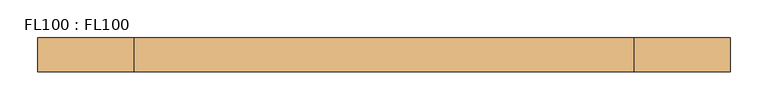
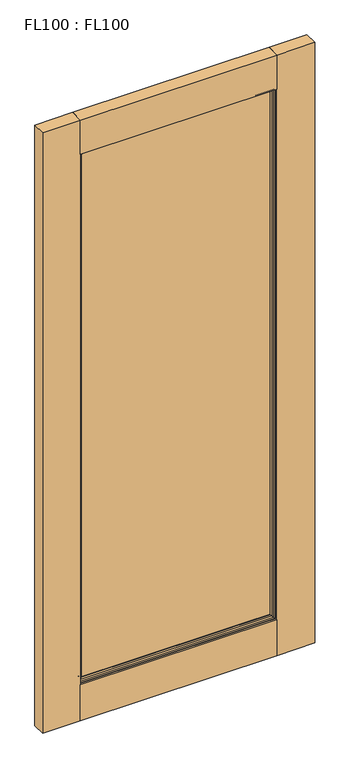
"""IFC4 building model written with IfcOpenShell, lengths in millimetres: door geometry, FL100 : FL100."""

from ifc_helpers import new_model, si_unit, frame, origin, origin_with_axes, place, context, project, spatial, polyline, ellipse_curve, outline, extrude, source, transform, mapped, element, save
from ifc_brep_helpers import plane_surface, cylinder_surface, revolved_surface, advanced_brep


def fl100_fl100_03ccafaa(model_context):
    return source(origin(), model_context, "Body", "SolidModel", [
        extrude(outline(polyline([(787.4, -44.45), (127.0, -44.45), (127.0, 0.0), (787.4, 0.0), (787.4, -44.45)])), origin_with_axes(), (0.0, 0.0, 1.0), 127.0),
        extrude(outline(polyline([(787.4, -44.45), (127.0, -44.45), (127.0, 0.0), (787.4, 0.0), (787.4, -44.45)])), frame((0.0, 0.0, 2011.7389588), z_axis=(0.0, 0.0, 1.0), x_axis=(1.0, 0.0, 0.0)), (0.0, 0.0, 1.0), 121.8610412),
        extrude(outline(polyline([(127.0, -19.05), (787.4, -19.05), (787.4, -25.4), (127.0, -25.4), (127.0, -19.05)])), frame((0.0, 0.0, 127.0), z_axis=(0.0, 0.0, 1.0), x_axis=(1.0, 0.0, 0.0)), (0.0, 0.0, 1.0), 1884.7389588),
        extrude(outline(polyline([(914.4, -44.45), (787.4, -44.45), (787.4, 0.0), (914.4, 0.0), (914.4, -44.45)])), origin_with_axes(), (0.0, 0.0, 1.0), 2133.6),
        extrude(outline(polyline([(127.0, -44.45), (0.0, -44.45), (0.0, 0.0), (127.0, 0.0), (127.0, -44.45)])), origin_with_axes(), (0.0, 0.0, 1.0), 2133.6),
        advanced_brep(
        [(787.4, -6.35, 2011.7389588), (787.4, -19.05, 2011.7389588), (787.4, -19.05, 127.0), (787.4, -6.35, 127.0), (774.7, -19.05, 1999.0389588), (774.7, -15.875, 1999.0389588), (774.7, -15.875, 139.7), (774.7, -19.05, 139.7), (127.0, -19.05, 127.0), (127.0, -6.35, 127.0), (139.7, -15.875, 139.7), (139.7, -19.05, 139.7), (127.0, -19.05, 2011.7389588), (127.0, -6.35, 2011.7389588), (139.7, -15.875, 1999.0389588), (139.7, -19.05, 1999.0389588), (784.225, -6.35, 2008.5639588), (130.175, -6.35, 2008.5639588), (130.175, -6.35, 130.175), (784.225, -6.35, 130.175), (781.98115, -10.2364622, 2006.3201088), (781.98115, -10.2364622, 132.41885), (778.5864622, -13.63115, 2002.925421), (778.5864622, -13.63115, 135.8135378), (132.41885, -10.2364622, 132.41885), (135.8135378, -13.63115, 135.8135378), (132.41885, -10.2364622, 2006.3201088), (135.8135378, -13.63115, 2002.925421)],
        [
            (0, 1),
            (1, 2),
            (2, 3),
            (3, 0),
            (4, 5),
            (5, 6),
            (6, 7),
            (7, 4),
            (2, 8),
            (8, 9),
            (9, 3),
            (6, 10),
            (10, 11),
            (11, 7),
            (8, 12),
            (12, 13),
            (13, 9),
            (10, 14),
            (14, 15),
            (15, 11),
            (1, 12),
            (15, 4),
            (0, 13),
            (16, 17),
            (17, 18),
            (18, 19),
            (19, 16),
            (14, 5),
            (20, 16, ellipse_curve(frame((779.316688, -6.1071596, 2003.6556468), z_axis=(-0.7071067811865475, 0.0, 0.7071067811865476), x_axis=(-0.7071067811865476, 0.0, -0.7071067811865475)), 6.9498918, 4.9143156)),
            (19, 21, ellipse_curve(frame((779.316688, -6.1071596, 135.083312), z_axis=(-0.7071067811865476, 0.0, -0.7071067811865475), x_axis=(0.7071067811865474, 0.0, -0.7071067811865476)), 6.9498918, 4.9143156)),
            (21, 20),
            (22, 20, ellipse_curve(frame((788.1558944, -19.8058944, 2012.4948532), z_axis=(0.7071067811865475, 0.0, -0.7071067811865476), x_axis=(0.7071067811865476, 0.0, 0.7071067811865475)), 16.1059927, 11.3886566)),
            (21, 23, ellipse_curve(frame((788.1558944, -19.8058944, 126.2441056), z_axis=(0.7071067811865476, 0.0, 0.7071067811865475), x_axis=(-0.7071067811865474, 0.0, 0.7071067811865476)), 16.1059927, 11.3886566)),
            (23, 22),
            (5, 22, ellipse_curve(frame((774.4571596, -10.966688, 1998.7961184), z_axis=(-0.7071067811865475, 0.0, 0.7071067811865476), x_axis=(-0.7071067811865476, 0.0, -0.7071067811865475)), 6.9498918, 4.9143156)),
            (23, 6, ellipse_curve(frame((774.4571596, -10.966688, 139.9428404), z_axis=(-0.7071067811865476, 0.0, -0.7071067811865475), x_axis=(0.7071067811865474, 0.0, -0.7071067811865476)), 6.9498918, 4.9143156)),
            (18, 24, ellipse_curve(frame((135.083312, -6.1071596, 135.083312), z_axis=(-0.7071067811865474, 0.0, 0.7071067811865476), x_axis=(-0.7071067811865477, 0.0, -0.7071067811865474)), 6.9498918, 4.9143156)),
            (24, 21),
            (24, 25, ellipse_curve(frame((126.2441056, -19.8058944, 126.2441056), z_axis=(0.7071067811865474, 0.0, -0.7071067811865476), x_axis=(0.7071067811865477, 0.0, 0.7071067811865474)), 16.1059927, 11.3886566)),
            (25, 23),
            (25, 10, ellipse_curve(frame((139.9428404, -10.966688, 139.9428404), z_axis=(-0.7071067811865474, 0.0, 0.7071067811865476), x_axis=(-0.7071067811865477, 0.0, -0.7071067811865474)), 6.9498918, 4.9143156)),
            (17, 26, ellipse_curve(frame((135.083312, -6.1071596, 2003.6556468), z_axis=(0.7071067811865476, 0.0, 0.7071067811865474), x_axis=(-0.7071067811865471, 0.0, 0.7071067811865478)), 6.9498918, 4.9143156)),
            (26, 24),
            (26, 27, ellipse_curve(frame((126.2441056, -19.8058944, 2012.4948532), z_axis=(-0.7071067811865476, 0.0, -0.7071067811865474), x_axis=(0.7071067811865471, 0.0, -0.7071067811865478)), 16.1059927, 11.3886566)),
            (27, 25),
            (27, 14, ellipse_curve(frame((139.9428404, -10.966688, 1998.7961184), z_axis=(0.7071067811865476, 0.0, 0.7071067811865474), x_axis=(-0.7071067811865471, 0.0, 0.7071067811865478)), 6.9498918, 4.9143156)),
            (20, 26),
            (22, 27),
        ],
        [
            plane_surface(frame((787.4, -19.05, 2011.7389588), z_axis=(1.0, 0.0, 0.0), x_axis=(0.0, 0.0, -1.0))),
            plane_surface(frame((774.7, -15.875, 1999.0389588), z_axis=(-1.0, 0.0, 0.0), x_axis=(0.0, 0.0, -1.0))),
            plane_surface(frame((787.4, -19.05, 127.0), z_axis=(0.0, 0.0, -1.0), x_axis=(-1.0, 0.0, 0.0))),
            plane_surface(frame((774.7, -15.875, 139.7), z_axis=(0.0, 0.0, 1.0), x_axis=(-1.0, 0.0, 0.0))),
            plane_surface(frame((127.0, -19.05, 127.0), z_axis=(-1.0, 0.0, 0.0), x_axis=(0.0, 0.0, 1.0))),
            plane_surface(frame((139.7, -15.875, 139.7), z_axis=(1.0, 0.0, 0.0), x_axis=(0.0, 0.0, 1.0))),
            plane_surface(frame((139.7, -19.05, 1999.0389588), z_axis=(0.0, -1.0, 0.0), x_axis=(1.0, 0.0, 0.0))),
            plane_surface(frame((127.0, -19.05, 2011.7389588), z_axis=(0.0, 0.0, 1.0), x_axis=(1.0, 0.0, 0.0))),
            plane_surface(frame((127.0, -6.35, 2011.7389588), z_axis=(0.0, 1.0, 0.0), x_axis=(1.0, 0.0, 0.0))),
            plane_surface(frame((139.7, -15.875, 1999.0389588), z_axis=(0.0, 0.0, -1.0), x_axis=(1.0, 0.0, 0.0))),
            revolved_surface(polyline([(774.4023724, -6.1071596, 130.1689963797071), (774.4023724, -6.1071596, 2008.569962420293)]), (779.316688, -6.1071596, 2011.7389588), (0.0, 0.0, -1.0)),
            cylinder_surface(frame((788.1558944, -19.8058944, 2011.7389588), z_axis=(0.0, 0.0, 1.0), x_axis=(-1.0, 0.0, 0.0)), 11.3886566),
            revolved_surface(polyline([(769.542844, -10.966688, 135.02852477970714), (769.542844, -10.966688, 2003.710434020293)]), (774.4571596, -10.966688, 2011.7389588), (0.0, 0.0, -1.0)),
            revolved_surface(polyline([(130.1689963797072, -6.1071596, 139.99762760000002), (784.2310036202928, -6.1071596, 139.99762760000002)]), (787.4, -6.1071596, 135.083312), (-1.0, 0.0, 0.0)),
            cylinder_surface(frame((787.4, -19.8058944, 126.2441056), z_axis=(1.0, 0.0, 0.0), x_axis=(0.0, 0.0, 1.0)), 11.3886566),
            revolved_surface(polyline([(135.02852477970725, -10.966688, 144.857156), (779.3714752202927, -10.966688, 144.857156)]), (787.4, -10.966688, 139.9428404), (-1.0, 0.0, 0.0)),
            revolved_surface(polyline([(139.99762760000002, -6.1071596, 2008.569962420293), (139.99762760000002, -6.1071596, 130.16899637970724)]), (135.083312, -6.1071596, 127.0), (0.0, 0.0, 1.0)),
            cylinder_surface(frame((126.2441056, -19.8058944, 127.0), z_axis=(0.0, 0.0, -1.0), x_axis=(1.0, 0.0, 0.0)), 11.3886566),
            revolved_surface(polyline([(144.857156, -10.966688, 2003.710434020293), (144.857156, -10.966688, 135.02852477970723)]), (139.9428404, -10.966688, 127.0), (0.0, 0.0, 1.0)),
            revolved_surface(polyline([(784.2310036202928, -6.1071596, 1998.7413312), (130.16899637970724, -6.1071596, 1998.7413312)]), (127.0, -6.1071596, 2003.6556468), (1.0, 0.0, 0.0)),
            cylinder_surface(frame((127.0, -19.8058944, 2012.4948532), z_axis=(-1.0, 0.0, 0.0), x_axis=(0.0, 0.0, -1.0)), 11.3886566),
            revolved_surface(polyline([(779.3714752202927, -10.966688, 1993.8818028), (135.02852477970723, -10.966688, 1993.8818028)]), (127.0, -10.966688, 1998.7961184), (1.0, 0.0, 0.0)),
        ],
        [
            (0, [[1, 2, 3, 4]]),
            (1, [[5, 6, 7, 8]]),
            (2, [[-3, 9, 10, 11]]),
            (3, [[-7, 12, 13, 14]]),
            (4, [[-10, 15, 16, 17]]),
            (5, [[-13, 18, 19, 20]]),
            (6, [[21, -15, -9, -2], [-14, -20, 22, -8]]),
            (7, [[-16, -21, -1, 23]]),
            (8, [[-11, -17, -23, -4], [24, 25, 26, 27]]),
            (9, [[-19, 28, -5, -22]]),
            (10, [[29, -27, 30, 31]]),
            (11, [[32, -31, 33, 34]]),
            (12, [[35, -34, 36, -6]]),
            (13, [[-30, -26, 37, 38]]),
            (14, [[-33, -38, 39, 40]]),
            (15, [[-36, -40, 41, -12]]),
            (16, [[-37, -25, 42, 43]]),
            (17, [[-39, -43, 44, 45]]),
            (18, [[-41, -45, 46, -18]]),
            (19, [[-42, -24, -29, 47]]),
            (20, [[-44, -47, -32, 48]]),
            (21, [[-46, -48, -35, -28]]),
        ],
    ),
        advanced_brep(
        [(774.7, -28.575, 1999.0389588), (774.7, -25.4, 1999.0389588), (774.7, -25.4, 139.7), (774.7, -28.575, 139.7), (787.4, -25.4, 2011.7389588), (787.4, -38.1, 2011.7389588), (787.4, -38.1, 127.0), (787.4, -25.4, 127.0), (139.7, -25.4, 139.7), (139.7, -28.575, 139.7), (127.0, -38.1, 127.0), (127.0, -25.4, 127.0), (139.7, -25.4, 1999.0389588), (139.7, -28.575, 1999.0389588), (127.0, -38.1, 2011.7389588), (127.0, -25.4, 2011.7389588), (784.225, -38.1, 130.175), (130.175, -38.1, 130.175), (130.175, -38.1, 2008.5639588), (784.225, -38.1, 2008.5639588), (778.5864622, -30.81885, 2002.925421), (778.5864622, -30.81885, 135.8135378), (781.98115, -34.2135378, 2006.3201088), (781.98115, -34.2135378, 132.41885), (135.8135378, -30.81885, 135.8135378), (132.41885, -34.2135378, 132.41885), (135.8135378, -30.81885, 2002.925421), (132.41885, -34.2135378, 2006.3201088)],
        [
            (0, 1),
            (1, 2),
            (2, 3),
            (3, 0),
            (4, 5),
            (5, 6),
            (6, 7),
            (7, 4),
            (2, 8),
            (8, 9),
            (9, 3),
            (6, 10),
            (10, 11),
            (11, 7),
            (8, 12),
            (12, 13),
            (13, 9),
            (10, 14),
            (14, 15),
            (15, 11),
            (12, 1),
            (0, 13),
            (5, 14),
            (16, 17),
            (17, 18),
            (18, 19),
            (19, 16),
            (4, 15),
            (20, 0, ellipse_curve(frame((774.4571596, -33.483312, 1998.7961184), z_axis=(-0.7071067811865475, 0.0, 0.7071067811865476), x_axis=(-0.7071067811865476, 0.0, -0.7071067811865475)), 6.9498918, 4.9143156)),
            (3, 21, ellipse_curve(frame((774.4571596, -33.483312, 139.9428404), z_axis=(-0.7071067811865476, 0.0, -0.7071067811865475), x_axis=(0.7071067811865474, 0.0, -0.7071067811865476)), 6.9498918, 4.9143156)),
            (21, 20),
            (22, 20, ellipse_curve(frame((788.1558944, -24.6441056, 2012.4948532), z_axis=(0.7071067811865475, 0.0, -0.7071067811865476), x_axis=(0.7071067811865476, 0.0, 0.7071067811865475)), 16.1059927, 11.3886566)),
            (21, 23, ellipse_curve(frame((788.1558944, -24.6441056, 126.2441056), z_axis=(0.7071067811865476, 0.0, 0.7071067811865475), x_axis=(-0.7071067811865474, 0.0, 0.7071067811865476)), 16.1059927, 11.3886566)),
            (23, 22),
            (19, 22, ellipse_curve(frame((779.316688, -38.3428404, 2003.6556468), z_axis=(-0.7071067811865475, 0.0, 0.7071067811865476), x_axis=(-0.7071067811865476, 0.0, -0.7071067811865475)), 6.9498918, 4.9143156)),
            (23, 16, ellipse_curve(frame((779.316688, -38.3428404, 135.083312), z_axis=(-0.7071067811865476, 0.0, -0.7071067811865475), x_axis=(0.7071067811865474, 0.0, -0.7071067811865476)), 6.9498918, 4.9143156)),
            (9, 24, ellipse_curve(frame((139.9428404, -33.483312, 139.9428404), z_axis=(-0.7071067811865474, 0.0, 0.7071067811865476), x_axis=(-0.7071067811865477, 0.0, -0.7071067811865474)), 6.9498918, 4.9143156)),
            (24, 21),
            (24, 25, ellipse_curve(frame((126.2441056, -24.6441056, 126.2441056), z_axis=(0.7071067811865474, 0.0, -0.7071067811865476), x_axis=(0.7071067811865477, 0.0, 0.7071067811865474)), 16.1059927, 11.3886566)),
            (25, 23),
            (25, 17, ellipse_curve(frame((135.083312, -38.3428404, 135.083312), z_axis=(-0.7071067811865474, 0.0, 0.7071067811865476), x_axis=(-0.7071067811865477, 0.0, -0.7071067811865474)), 6.9498918, 4.9143156)),
            (13, 26, ellipse_curve(frame((139.9428404, -33.483312, 1998.7961184), z_axis=(0.7071067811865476, 0.0, 0.7071067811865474), x_axis=(-0.7071067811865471, 0.0, 0.7071067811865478)), 6.9498918, 4.9143156)),
            (26, 24),
            (26, 27, ellipse_curve(frame((126.2441056, -24.6441056, 2012.4948532), z_axis=(-0.7071067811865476, 0.0, -0.7071067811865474), x_axis=(0.7071067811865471, 0.0, -0.7071067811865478)), 16.1059927, 11.3886566)),
            (27, 25),
            (27, 18, ellipse_curve(frame((135.083312, -38.3428404, 2003.6556468), z_axis=(0.7071067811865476, 0.0, 0.7071067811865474), x_axis=(-0.7071067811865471, 0.0, 0.7071067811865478)), 6.9498918, 4.9143156)),
            (20, 26),
            (22, 27),
        ],
        [
            plane_surface(frame((774.7, -25.4, 1999.0389588), z_axis=(-1.0, 0.0, 0.0), x_axis=(0.0, 0.0, -1.0))),
            plane_surface(frame((787.4, -38.1, 2011.7389588), z_axis=(1.0, 0.0, 0.0), x_axis=(0.0, 0.0, -1.0))),
            plane_surface(frame((774.7, -25.4, 139.7), z_axis=(0.0, 0.0, 1.0), x_axis=(-1.0, 0.0, 0.0))),
            plane_surface(frame((787.4, -38.1, 127.0), z_axis=(0.0, 0.0, -1.0), x_axis=(-1.0, 0.0, 0.0))),
            plane_surface(frame((139.7, -25.4, 139.7), z_axis=(1.0, 0.0, 0.0), x_axis=(0.0, 0.0, 1.0))),
            plane_surface(frame((127.0, -38.1, 127.0), z_axis=(-1.0, 0.0, 0.0), x_axis=(0.0, 0.0, 1.0))),
            plane_surface(frame((139.7, -25.4, 1999.0389588), z_axis=(0.0, 0.0, -1.0), x_axis=(1.0, 0.0, 0.0))),
            plane_surface(frame((130.175, -38.1, 2008.5639588), z_axis=(0.0, -1.0, 0.0), x_axis=(1.0, 0.0, 0.0))),
            plane_surface(frame((127.0, -38.1, 2011.7389588), z_axis=(0.0, 0.0, 1.0), x_axis=(1.0, 0.0, 0.0))),
            plane_surface(frame((127.0, -25.4, 2011.7389588), z_axis=(0.0, 1.0, 0.0), x_axis=(1.0, 0.0, 0.0))),
            revolved_surface(polyline([(769.542844, -33.483312, 135.02852477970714), (769.542844, -33.483312, 2003.710434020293)]), (774.4571596, -33.483312, 2011.7389588), (0.0, 0.0, -1.0)),
            cylinder_surface(frame((788.1558944, -24.6441056, 2011.7389588), z_axis=(0.0, 0.0, 1.0), x_axis=(-1.0, 0.0, 0.0)), 11.3886566),
            revolved_surface(polyline([(774.4023724, -38.3428404, 130.1689963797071), (774.4023724, -38.3428404, 2008.569962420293)]), (779.316688, -38.3428404, 2011.7389588), (0.0, 0.0, -1.0)),
            revolved_surface(polyline([(135.02852477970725, -33.483312, 144.857156), (779.3714752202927, -33.483312, 144.857156)]), (787.4, -33.483312, 139.9428404), (-1.0, 0.0, 0.0)),
            cylinder_surface(frame((787.4, -24.6441056, 126.2441056), z_axis=(1.0, 0.0, 0.0), x_axis=(0.0, 0.0, 1.0)), 11.3886566),
            revolved_surface(polyline([(130.1689963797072, -38.3428404, 139.99762760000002), (784.2310036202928, -38.3428404, 139.99762760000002)]), (787.4, -38.3428404, 135.083312), (-1.0, 0.0, 0.0)),
            revolved_surface(polyline([(144.857156, -33.483312, 2003.710434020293), (144.857156, -33.483312, 135.02852477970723)]), (139.9428404, -33.483312, 127.0), (0.0, 0.0, 1.0)),
            cylinder_surface(frame((126.2441056, -24.6441056, 127.0), z_axis=(0.0, 0.0, -1.0), x_axis=(1.0, 0.0, 0.0)), 11.3886566),
            revolved_surface(polyline([(139.99762760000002, -38.3428404, 2008.569962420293), (139.99762760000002, -38.3428404, 130.16899637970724)]), (135.083312, -38.3428404, 127.0), (0.0, 0.0, 1.0)),
            revolved_surface(polyline([(779.3714752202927, -33.483312, 1993.8818028), (135.02852477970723, -33.483312, 1993.8818028)]), (127.0, -33.483312, 1998.7961184), (1.0, 0.0, 0.0)),
            cylinder_surface(frame((127.0, -24.6441056, 2012.4948532), z_axis=(-1.0, 0.0, 0.0), x_axis=(0.0, 0.0, -1.0)), 11.3886566),
            revolved_surface(polyline([(784.2310036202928, -38.3428404, 1998.7413312), (130.16899637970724, -38.3428404, 1998.7413312)]), (127.0, -38.3428404, 2003.6556468), (1.0, 0.0, 0.0)),
        ],
        [
            (0, [[1, 2, 3, 4]]),
            (1, [[5, 6, 7, 8]]),
            (2, [[-3, 9, 10, 11]]),
            (3, [[-7, 12, 13, 14]]),
            (4, [[-10, 15, 16, 17]]),
            (5, [[-13, 18, 19, 20]]),
            (6, [[-16, 21, -1, 22]]),
            (7, [[23, -18, -12, -6], [24, 25, 26, 27]]),
            (8, [[-19, -23, -5, 28]]),
            (9, [[-14, -20, -28, -8], [-21, -15, -9, -2]]),
            (10, [[29, -4, 30, 31]]),
            (11, [[32, -31, 33, 34]]),
            (12, [[35, -34, 36, -27]]),
            (13, [[-30, -11, 37, 38]]),
            (14, [[-33, -38, 39, 40]]),
            (15, [[-36, -40, 41, -24]]),
            (16, [[-37, -17, 42, 43]]),
            (17, [[-39, -43, 44, 45]]),
            (18, [[-41, -45, 46, -25]]),
            (19, [[-42, -22, -29, 47]]),
            (20, [[-44, -47, -32, 48]]),
            (21, [[-46, -48, -35, -26]]),
        ],
    ),
    ])


if __name__ == "__main__":
    model = new_model("IFC4")
    model_context = context("Model", 3, world=origin())
    ifc_project = project(units=[si_unit("LENGTHUNIT", "METRE", prefix="MILLI")], contexts=[model_context])
    site = spatial("IfcSite", under=ifc_project)
    building = spatial("IfcBuilding", under=site)
    placement = place(None, origin())
    fl100_fl100_shape = fl100_fl100_03ccafaa(model_context)
    element("IfcDoor", 1, ObjectType="FL100 : FL100", at=placement, inside=building, context=model_context, shape_type="MappedRepresentation", body=[
        mapped(fl100_fl100_shape, transform((0.0, 0.0, 0.0), x_axis=(1.0, 0.0, 0.0), y_axis=(0.0, 1.0, 0.0), z_axis=(0.0, 0.0, 1.0))),
    ])
    save(model, "model.ifc")
